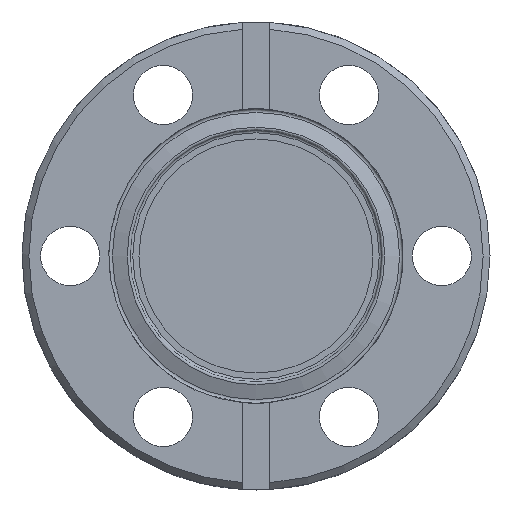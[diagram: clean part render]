
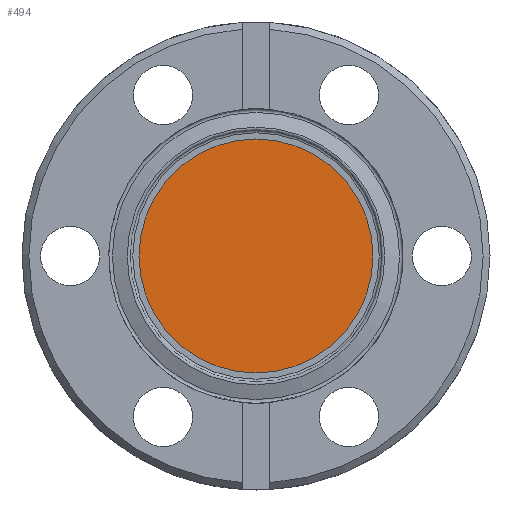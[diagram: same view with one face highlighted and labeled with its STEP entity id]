
A CAD part, front view. The second image highlights one B-rep face of the part: STEP entity #494.
In plain terms, the highlighted planar face has unit normal (0, -1, 0).
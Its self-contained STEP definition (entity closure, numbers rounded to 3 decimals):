
#37=PLANE('',#559);
#63=FACE_OUTER_BOUND('',#100,.T.);
#100=EDGE_LOOP('',(#389));
#201=CIRCLE('',#558,8.5);
#250=VERTEX_POINT('',#843);
#304=EDGE_CURVE('',#250,#250,#201,.T.);
#389=ORIENTED_EDGE('',*,*,#304,.F.);
#494=ADVANCED_FACE('',(#63),#37,.T.);
#558=AXIS2_PLACEMENT_3D('',#845,#676,#677);
#559=AXIS2_PLACEMENT_3D('',#846,#678,#679);
#676=DIRECTION('center_axis',(0.,1.,0.));
#677=DIRECTION('ref_axis',(1.,0.,0.));
#678=DIRECTION('center_axis',(0.,-1.,0.));
#679=DIRECTION('ref_axis',(1.,0.,0.));
#843=CARTESIAN_POINT('',(-8.5,1.7,0.));
#845=CARTESIAN_POINT('Origin',(0.,1.7,0.));
#846=CARTESIAN_POINT('Origin',(0.,1.7,0.));
